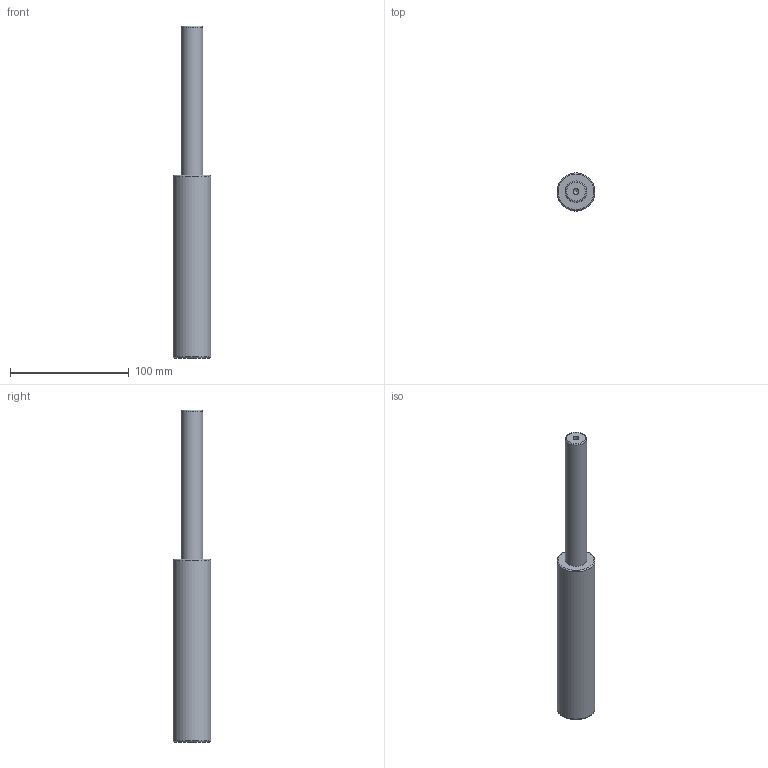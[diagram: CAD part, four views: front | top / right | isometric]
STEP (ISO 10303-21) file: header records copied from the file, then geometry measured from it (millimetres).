
FILE_DESCRIPTION(/* description */ (''),/* implementation_level */ '2;1');
FILE_NAME(/* name */ 'NV5-SMLX.32x125.stp',/* time_stamp */ '2018-08-31T16:08:37+02:00',/* author */ (''),/* organization */ (''),/* preprocessor_version */ 'ST-DEVELOPER v16',/* originating_system */ 'SIEMENS PLM Software NX 10.0',/* authorisation */ '');
FILE_SCHEMA (('AUTOMOTIVE_DESIGN { 1 0 10303 214 3 1 1 1 }'));
Length unit declared in the file: millimetre
Products named in the file (1): NV5-SMLX.32x125
Bounding box: 32 x 32 x 280 mm (x, y, z)
Volume: 155411.2 mm3; surface area: 24455.6 mm2
Topology: 1 solids, 1 shells, 12 faces, 24 edges, 15 vertices
Faces by surface type: cylinder 4, torus 3, plane 3, cone 2
Full cylindrical faces by diameter (mm): 5 x2, 18 x1, 32 x1
Entity records: 266 total; most frequent: DIRECTION 48, CARTESIAN_POINT 37, FACE_BOUND 24, AXIS2_PLACEMENT_3D 24, EDGE_LOOP 22, ORIENTED_EDGE 22, VERTEX_POINT 13, ADVANCED_FACE 12
